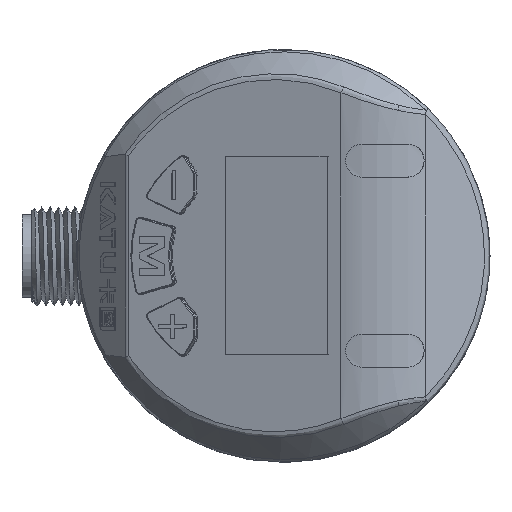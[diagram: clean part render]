
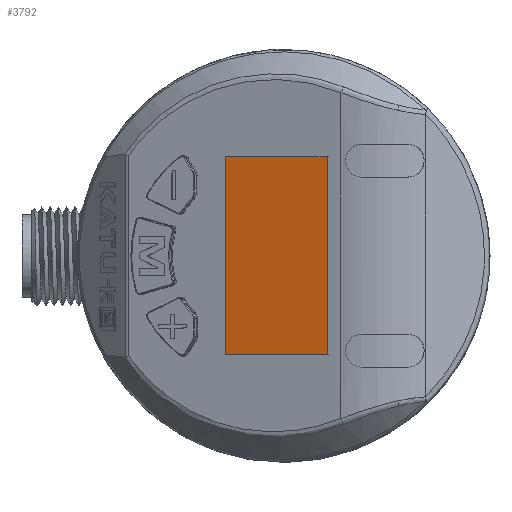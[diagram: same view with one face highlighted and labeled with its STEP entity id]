
A CAD part, top view. The second image highlights one B-rep face of the part: STEP entity #3792.
In plain terms, the highlighted planar face has unit normal (-0.342, 0, 0.94).
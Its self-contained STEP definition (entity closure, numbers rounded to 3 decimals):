
#861=LINE('',#19756,#1589);
#862=LINE('',#19759,#1590);
#863=LINE('',#19761,#1591);
#864=LINE('',#19763,#1592);
#1589=VECTOR('',#13287,1.);
#1590=VECTOR('',#13288,1.);
#1591=VECTOR('',#13289,1.);
#1592=VECTOR('',#13290,1.);
#3143=FACE_OUTER_BOUND('',#5032,.T.);
#3792=ADVANCED_FACE('',(#3143),#4129,.T.);
#4129=PLANE('',#10884);
#5032=EDGE_LOOP('',(#7481,#7482,#7483,#7484));
#7481=ORIENTED_EDGE('',*,*,#9701,.T.);
#7482=ORIENTED_EDGE('',*,*,#9702,.T.);
#7483=ORIENTED_EDGE('',*,*,#9703,.T.);
#7484=ORIENTED_EDGE('',*,*,#9704,.T.);
#8453=VERTEX_POINT('',#19757);
#8454=VERTEX_POINT('',#19758);
#8455=VERTEX_POINT('',#19760);
#8456=VERTEX_POINT('',#19762);
#9701=EDGE_CURVE('',#8453,#8454,#861,.T.);
#9702=EDGE_CURVE('',#8454,#8455,#862,.T.);
#9703=EDGE_CURVE('',#8455,#8456,#863,.T.);
#9704=EDGE_CURVE('',#8456,#8453,#864,.T.);
#10884=AXIS2_PLACEMENT_3D('',#19764,#13291,#13292);
#13287=DIRECTION('',(-0.94,0.,-0.342));
#13288=DIRECTION('',(0.,-1.,0.));
#13289=DIRECTION('',(0.94,0.,0.342));
#13290=DIRECTION('',(0.,1.,0.));
#13291=DIRECTION('',(-0.342,0.,0.94));
#13292=DIRECTION('',(-0.94,0.,-0.342));
#19756=CARTESIAN_POINT('',(-130.694,12.006,157.876));
#19757=CARTESIAN_POINT('',(-139.742,12.002,154.583));
#19758=CARTESIAN_POINT('',(-152.061,11.997,150.099));
#19759=CARTESIAN_POINT('',(-152.051,-15.759,150.103));
#19760=CARTESIAN_POINT('',(-152.052,-11.997,150.102));
#19761=CARTESIAN_POINT('',(-130.685,-11.988,157.879));
#19762=CARTESIAN_POINT('',(-139.733,-11.992,154.586));
#19763=CARTESIAN_POINT('',(-139.732,-15.753,154.586));
#19764=CARTESIAN_POINT('',(-130.684,-15.75,157.879));
